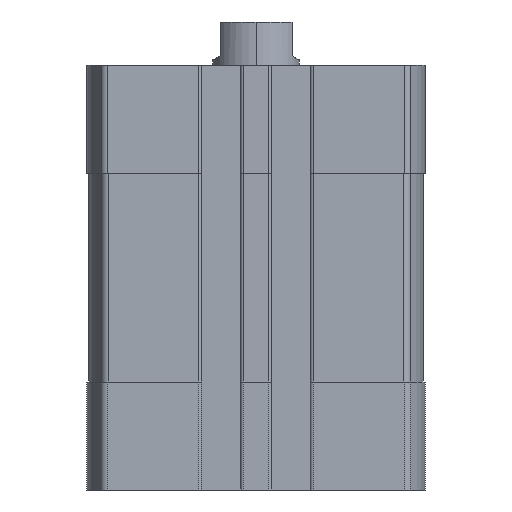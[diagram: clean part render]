
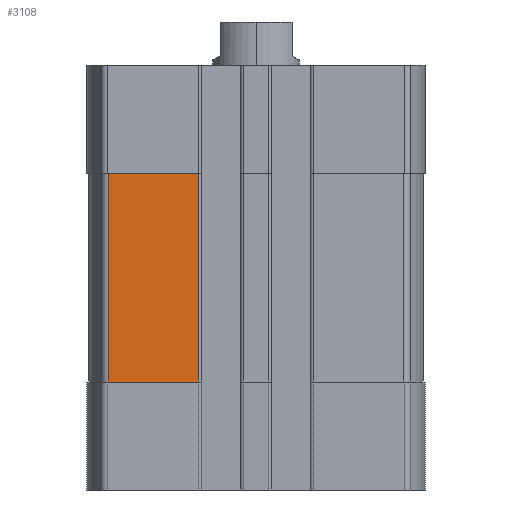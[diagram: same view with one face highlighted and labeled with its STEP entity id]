
A CAD part, left-side view. The second image highlights one B-rep face of the part: STEP entity #3108.
In plain terms, the highlighted planar face has unit normal (-1, 0, 0).
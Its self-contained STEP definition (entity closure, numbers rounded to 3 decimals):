
#643 = ORIENTED_EDGE ( 'NONE', *, *, #4948, .T. ) ;
#855 = VECTOR ( 'NONE', #5175, 1000. ) ;
#1140 = DIRECTION ( 'NONE',  ( 0., -1., 0. ) ) ;
#1373 = CARTESIAN_POINT ( 'NONE',  ( -23.25, 7.95, -44. ) ) ;
#1457 = EDGE_LOOP ( 'NONE', ( #643, #7995, #9817, #15012 ) ) ;
#2150 = DIRECTION ( 'NONE',  ( -1., 0., 0. ) ) ;
#2381 = DIRECTION ( 'NONE',  ( 0., 1., 0. ) ) ;
#2666 = DIRECTION ( 'NONE',  ( 0., 0., -1. ) ) ;
#3108 = ADVANCED_FACE ( 'NONE', ( #5861 ), #9360, .T. ) ;
#3513 = VECTOR ( 'NONE', #2666, 1000. ) ;
#3659 = VERTEX_POINT ( 'NONE', #5712 ) ;
#4264 = LINE ( 'NONE', #12287, #3513 ) ;
#4697 = EDGE_CURVE ( 'NONE', #3659, #10604, #13535, .T. ) ;
#4948 = EDGE_CURVE ( 'NONE', #11877, #13414, #7718, .T. ) ;
#5175 = DIRECTION ( 'NONE',  ( 0., 0., -1. ) ) ;
#5263 = CARTESIAN_POINT ( 'NONE',  ( -23.25, 20.543, -15. ) ) ;
#5712 = CARTESIAN_POINT ( 'NONE',  ( -23.25, 7.95, -15. ) ) ;
#5861 = FACE_OUTER_BOUND ( 'NONE', #1457, .T. ) ;
#7154 = VECTOR ( 'NONE', #2381, 1000. ) ;
#7718 = LINE ( 'NONE', #13115, #13716 ) ;
#7995 = ORIENTED_EDGE ( 'NONE', *, *, #14047, .F. ) ;
#9360 = PLANE ( 'NONE',  #14837 ) ;
#9817 = ORIENTED_EDGE ( 'NONE', *, *, #4697, .T. ) ;
#10439 = LINE ( 'NONE', #11164, #855 ) ;
#10549 = DIRECTION ( 'NONE',  ( 0., 0., 1. ) ) ;
#10604 = VERTEX_POINT ( 'NONE', #5263 ) ;
#11164 = CARTESIAN_POINT ( 'NONE',  ( -23.25, 20.543, -44. ) ) ;
#11720 = CARTESIAN_POINT ( 'NONE',  ( -23.25, 20.543, -44. ) ) ;
#11877 = VERTEX_POINT ( 'NONE', #14124 ) ;
#12287 = CARTESIAN_POINT ( 'NONE',  ( -23.25, 7.95, -44. ) ) ;
#12929 = EDGE_CURVE ( 'NONE', #10604, #11877, #10439, .T. ) ;
#13115 = CARTESIAN_POINT ( 'NONE',  ( -23.25, 20.543, -44. ) ) ;
#13414 = VERTEX_POINT ( 'NONE', #1373 ) ;
#13535 = LINE ( 'NONE', #14380, #7154 ) ;
#13716 = VECTOR ( 'NONE', #1140, 1000. ) ;
#14047 = EDGE_CURVE ( 'NONE', #3659, #13414, #4264, .T. ) ;
#14124 = CARTESIAN_POINT ( 'NONE',  ( -23.25, 20.543, -44. ) ) ;
#14380 = CARTESIAN_POINT ( 'NONE',  ( -23.25, 0., -15. ) ) ;
#14837 = AXIS2_PLACEMENT_3D ( 'NONE', #11720, #2150, #10549 ) ;
#15012 = ORIENTED_EDGE ( 'NONE', *, *, #12929, .T. ) ;
